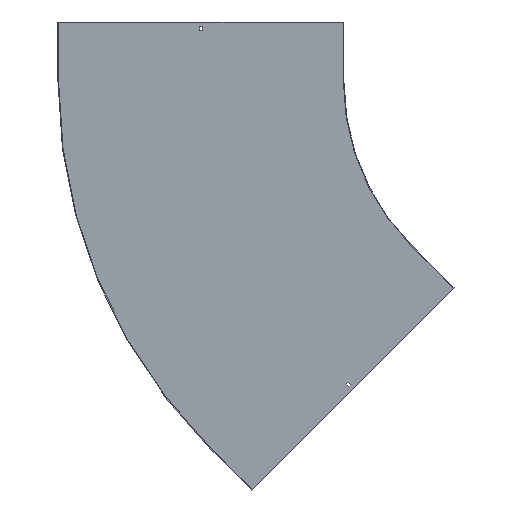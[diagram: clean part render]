
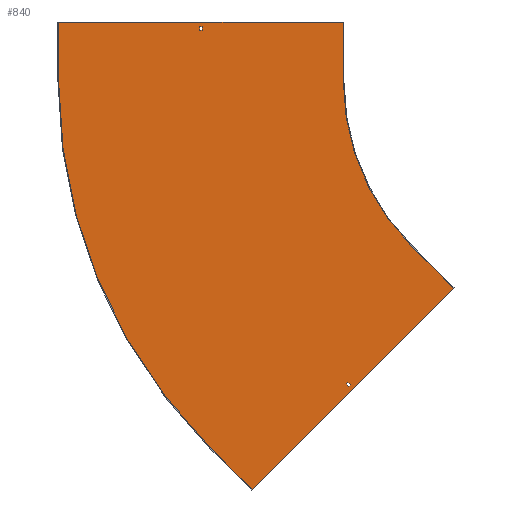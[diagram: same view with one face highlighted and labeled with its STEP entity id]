
A CAD part, front view. The second image highlights one B-rep face of the part: STEP entity #840.
In plain terms, the highlighted planar face has unit normal (0, -1, 0).
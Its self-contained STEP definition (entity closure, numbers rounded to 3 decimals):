
#1 = ORIENTED_EDGE ( 'NONE', *, *, #309, .F. ) ;
#4 = EDGE_CURVE ( 'NONE', #214, #631, #258, .T. ) ;
#19 = LINE ( 'NONE', #676, #532 ) ;
#34 = ORIENTED_EDGE ( 'NONE', *, *, #604, .T. ) ;
#42 = EDGE_CURVE ( 'NONE', #268, #303, #416, .T. ) ;
#46 = CARTESIAN_POINT ( 'NONE',  ( -582.833, -1.5, -765.266 ) ) ;
#49 = EDGE_CURVE ( 'NONE', #623, #638, #19, .T. ) ;
#52 = ORIENTED_EDGE ( 'NONE', *, *, #831, .T. ) ;
#68 = CARTESIAN_POINT ( 'NONE',  ( 0., -1.5, 138. ) ) ;
#69 = VERTEX_POINT ( 'NONE', #558 ) ;
#76 = VECTOR ( 'NONE', #841, 1000. ) ;
#83 = CARTESIAN_POINT ( 'NONE',  ( 91.217, -1.5, -91.217 ) ) ;
#84 = ORIENTED_EDGE ( 'NONE', *, *, #446, .F. ) ;
#92 = LINE ( 'NONE', #432, #753 ) ;
#94 = CARTESIAN_POINT ( 'NONE',  ( -953.25, -1.5, 0. ) ) ;
#96 = LINE ( 'NONE', #232, #192 ) ;
#100 = CARTESIAN_POINT ( 'NONE',  ( 0., -1.5, 0. ) ) ;
#102 = VECTOR ( 'NONE', #162, 1000. ) ;
#109 = FACE_OUTER_BOUND ( 'NONE', #842, .T. ) ;
#113 = FACE_BOUND ( 'NONE', #435, .T. ) ;
#117 = DIRECTION ( 'NONE',  ( 0., 0., -1. ) ) ;
#118 = CIRCLE ( 'NONE', #533, 1310. ) ;
#122 = CARTESIAN_POINT ( 'NONE',  ( -674.05, -1.5, -674.05 ) ) ;
#127 = ORIENTED_EDGE ( 'NONE', *, *, #4, .F. ) ;
#131 = VECTOR ( 'NONE', #412, 1000. ) ;
#134 = EDGE_CURVE ( 'NONE', #638, #658, #509, .T. ) ;
#136 = CARTESIAN_POINT ( 'NONE',  ( -576.469, -1.5, -771.63 ) ) ;
#139 = CARTESIAN_POINT ( 'NONE',  ( -946.75, -1.5, 138. ) ) ;
#143 = VERTEX_POINT ( 'NONE', #758 ) ;
#158 = VECTOR ( 'NONE', #319, 1000. ) ;
#162 = DIRECTION ( 'NONE',  ( 0.707, 0., 0.707 ) ) ;
#192 = VECTOR ( 'NONE', #686, 1000. ) ;
#194 = EDGE_CURVE ( 'NONE', #529, #799, #482, .T. ) ;
#207 = VECTOR ( 'NONE', #809, 1000. ) ;
#208 = ORIENTED_EDGE ( 'NONE', *, *, #377, .F. ) ;
#214 = VERTEX_POINT ( 'NONE', #46 ) ;
#219 = CARTESIAN_POINT ( 'NONE',  ( -953.25, -1.5, 129. ) ) ;
#226 = EDGE_CURVE ( 'NONE', #303, #214, #806, .T. ) ;
#232 = CARTESIAN_POINT ( 'NONE',  ( -417.193, -1.5, -417.193 ) ) ;
#238 = ORIENTED_EDGE ( 'NONE', *, *, #732, .F. ) ;
#240 = EDGE_CURVE ( 'NONE', #537, #662, #337, .T. ) ;
#242 = DIRECTION ( 'NONE',  ( 0., 0., 1. ) ) ;
#258 = LINE ( 'NONE', #122, #847 ) ;
#261 = ORIENTED_EDGE ( 'NONE', *, *, #134, .F. ) ;
#268 = VERTEX_POINT ( 'NONE', #820 ) ;
#280 = CARTESIAN_POINT ( 'NONE',  ( -310.066, -1.5, -522.198 ) ) ;
#283 = EDGE_CURVE ( 'NONE', #863, #623, #118, .T. ) ;
#294 = VERTEX_POINT ( 'NONE', #632 ) ;
#296 = DIRECTION ( 'NONE',  ( 0., 1., 0. ) ) ;
#303 = VERTEX_POINT ( 'NONE', #762 ) ;
#309 = EDGE_CURVE ( 'NONE', #799, #143, #96, .T. ) ;
#315 = CARTESIAN_POINT ( 'NONE',  ( -1311.5, -1.5, 150. ) ) ;
#319 = DIRECTION ( 'NONE',  ( -0.707, 0., 0.707 ) ) ;
#329 = EDGE_CURVE ( 'NONE', #627, #294, #433, .T. ) ;
#333 = CARTESIAN_POINT ( 'NONE',  ( -590., -1.5, 0. ) ) ;
#334 = CARTESIAN_POINT ( 'NONE',  ( -926.31, -1.5, -926.31 ) ) ;
#337 = LINE ( 'NONE', #401, #724 ) ;
#348 = LINE ( 'NONE', #280, #207 ) ;
#360 = DIRECTION ( 'NONE',  ( 0., 0., -1. ) ) ;
#377 = EDGE_CURVE ( 'NONE', #631, #268, #679, .T. ) ;
#386 = VECTOR ( 'NONE', #736, 1000. ) ;
#391 = FACE_BOUND ( 'NONE', #670, .T. ) ;
#401 = CARTESIAN_POINT ( 'NONE',  ( -946.75, -1.5, 0. ) ) ;
#408 = ORIENTED_EDGE ( 'NONE', *, *, #240, .T. ) ;
#412 = DIRECTION ( 'NONE',  ( 1., 0., 0. ) ) ;
#414 = CARTESIAN_POINT ( 'NONE',  ( -946.75, -1.5, 129. ) ) ;
#416 = LINE ( 'NONE', #749, #785 ) ;
#432 = CARTESIAN_POINT ( 'NONE',  ( -590., -1.5, 150. ) ) ;
#433 = LINE ( 'NONE', #94, #771 ) ;
#435 = EDGE_LOOP ( 'NONE', ( #709, #208, #127, #727 ) ) ;
#442 = ORIENTED_EDGE ( 'NONE', *, *, #283, .F. ) ;
#446 = EDGE_CURVE ( 'NONE', #69, #863, #519, .T. ) ;
#448 = PLANE ( 'NONE',  #630 ) ;
#450 = DIRECTION ( 'NONE',  ( 0., 0., -1. ) ) ;
#458 = ORIENTED_EDGE ( 'NONE', *, *, #579, .F. ) ;
#482 = CIRCLE ( 'NONE', #850, 590. ) ;
#500 = CARTESIAN_POINT ( 'NONE',  ( 97.581, -1.5, -97.581 ) ) ;
#509 = LINE ( 'NONE', #315, #76 ) ;
#519 = LINE ( 'NONE', #777, #158 ) ;
#529 = VERTEX_POINT ( 'NONE', #333 ) ;
#530 = ORIENTED_EDGE ( 'NONE', *, *, #194, .F. ) ;
#532 = VECTOR ( 'NONE', #616, 1000. ) ;
#533 = AXIS2_PLACEMENT_3D ( 'NONE', #100, #296, #700 ) ;
#537 = VERTEX_POINT ( 'NONE', #139 ) ;
#542 = CARTESIAN_POINT ( 'NONE',  ( -1310., -1.5, 0. ) ) ;
#557 = CARTESIAN_POINT ( 'NONE',  ( -1310., -1.5, 150. ) ) ;
#558 = CARTESIAN_POINT ( 'NONE',  ( -820.244, -1.5, -1032.376 ) ) ;
#579 = EDGE_CURVE ( 'NONE', #143, #69, #348, .T. ) ;
#592 = ORIENTED_EDGE ( 'NONE', *, *, #49, .F. ) ;
#604 = EDGE_CURVE ( 'NONE', #294, #537, #734, .T. ) ;
#616 = DIRECTION ( 'NONE',  ( 0., 0., 1. ) ) ;
#619 = CARTESIAN_POINT ( 'NONE',  ( -590., -1.5, 150. ) ) ;
#623 = VERTEX_POINT ( 'NONE', #542 ) ;
#626 = DIRECTION ( 'NONE',  ( -0.707, 0., 0.707 ) ) ;
#627 = VERTEX_POINT ( 'NONE', #219 ) ;
#630 = AXIS2_PLACEMENT_3D ( 'NONE', #636, #650, #117 ) ;
#631 = VERTEX_POINT ( 'NONE', #136 ) ;
#632 = CARTESIAN_POINT ( 'NONE',  ( -953.25, -1.5, 138. ) ) ;
#636 = CARTESIAN_POINT ( 'NONE',  ( 0., -1.5, 0. ) ) ;
#637 = CARTESIAN_POINT ( 'NONE',  ( 0., -1.5, 0. ) ) ;
#638 = VERTEX_POINT ( 'NONE', #557 ) ;
#650 = DIRECTION ( 'NONE',  ( 0., -1., 0. ) ) ;
#658 = VERTEX_POINT ( 'NONE', #619 ) ;
#662 = VERTEX_POINT ( 'NONE', #414 ) ;
#664 = ORIENTED_EDGE ( 'NONE', *, *, #329, .T. ) ;
#670 = EDGE_LOOP ( 'NONE', ( #34, #408, #52, #664 ) ) ;
#676 = CARTESIAN_POINT ( 'NONE',  ( -1310., -1.5, 0. ) ) ;
#679 = LINE ( 'NONE', #500, #102 ) ;
#686 = DIRECTION ( 'NONE',  ( 0.707, 0., -0.707 ) ) ;
#698 = LINE ( 'NONE', #714, #767 ) ;
#700 = DIRECTION ( 'NONE',  ( 0., 0., -1. ) ) ;
#704 = DIRECTION ( 'NONE',  ( 0., -1., 0. ) ) ;
#709 = ORIENTED_EDGE ( 'NONE', *, *, #42, .F. ) ;
#710 = DIRECTION ( 'NONE',  ( -1., 0., 0. ) ) ;
#714 = CARTESIAN_POINT ( 'NONE',  ( 0., -1.5, 129. ) ) ;
#719 = DIRECTION ( 'NONE',  ( 0.707, 0., -0.707 ) ) ;
#724 = VECTOR ( 'NONE', #730, 1000. ) ;
#727 = ORIENTED_EDGE ( 'NONE', *, *, #226, .F. ) ;
#730 = DIRECTION ( 'NONE',  ( 0., 0., -1. ) ) ;
#732 = EDGE_CURVE ( 'NONE', #658, #529, #92, .T. ) ;
#734 = LINE ( 'NONE', #68, #131 ) ;
#736 = DIRECTION ( 'NONE',  ( -0.707, 0., -0.707 ) ) ;
#749 = CARTESIAN_POINT ( 'NONE',  ( -669.453, -1.5, -669.453 ) ) ;
#753 = VECTOR ( 'NONE', #360, 1000. ) ;
#758 = CARTESIAN_POINT ( 'NONE',  ( -311.127, -1.5, -523.259 ) ) ;
#762 = CARTESIAN_POINT ( 'NONE',  ( -578.237, -1.5, -760.67 ) ) ;
#767 = VECTOR ( 'NONE', #710, 1000. ) ;
#771 = VECTOR ( 'NONE', #242, 1000. ) ;
#777 = CARTESIAN_POINT ( 'NONE',  ( -820.244, -1.5, -1032.376 ) ) ;
#785 = VECTOR ( 'NONE', #626, 1000. ) ;
#799 = VERTEX_POINT ( 'NONE', #855 ) ;
#806 = LINE ( 'NONE', #83, #386 ) ;
#809 = DIRECTION ( 'NONE',  ( -0.707, 0., -0.707 ) ) ;
#820 = CARTESIAN_POINT ( 'NONE',  ( -571.873, -1.5, -767.034 ) ) ;
#831 = EDGE_CURVE ( 'NONE', #662, #627, #698, .T. ) ;
#840 = ADVANCED_FACE ( 'NONE', ( #113, #109, #391 ), #448, .T. ) ;
#841 = DIRECTION ( 'NONE',  ( 1., 0., 0. ) ) ;
#842 = EDGE_LOOP ( 'NONE', ( #261, #592, #442, #84, #458, #1, #530, #238 ) ) ;
#847 = VECTOR ( 'NONE', #719, 1000. ) ;
#850 = AXIS2_PLACEMENT_3D ( 'NONE', #637, #704, #450 ) ;
#855 = CARTESIAN_POINT ( 'NONE',  ( -417.193, -1.5, -417.193 ) ) ;
#863 = VERTEX_POINT ( 'NONE', #334 ) ;
